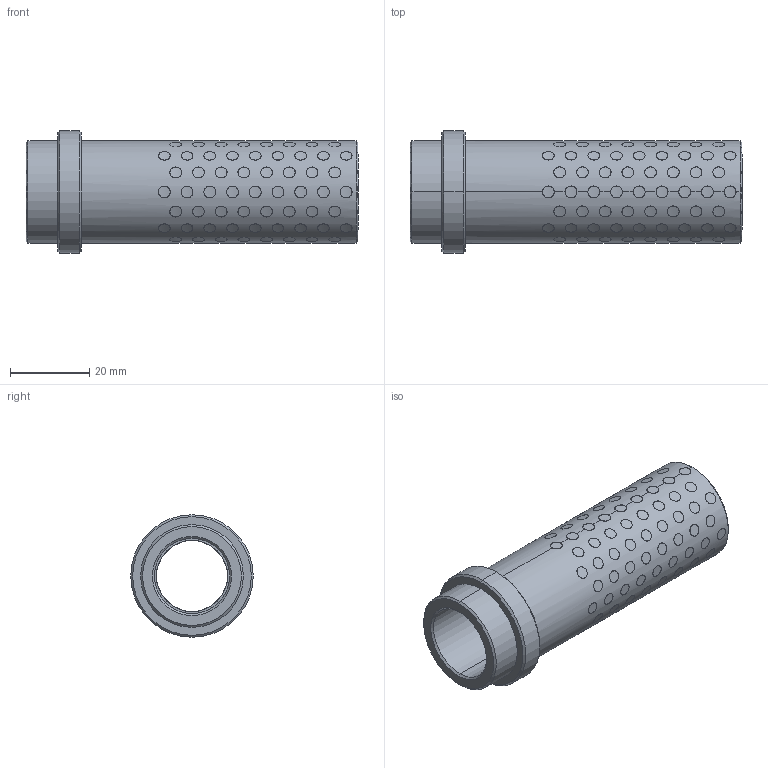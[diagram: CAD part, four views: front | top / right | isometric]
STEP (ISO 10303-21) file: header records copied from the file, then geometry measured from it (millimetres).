
FILE_DESCRIPTION((''),'2;1');
FILE_NAME('G31218076','2017-12-30T',('MANU'),(''),'PRO/ENGINEER BY PARAMETRIC TECHNOLOGY CORPORATION, 2012130','PRO/ENGINEER BY PARAMETRIC TECHNOLOGY CORPORATION, 2012130','');
FILE_SCHEMA(('CONFIG_CONTROL_DESIGN'));
Products named in the file (1): G31218076
Bounding box: 84 x 31 x 31 mm (x, y, z)
Volume: 23478.1 mm3; surface area: 22817.4 mm2
Topology: 137 solids, 137 shells, 843 faces, 1794 edges, 1192 vertices
Faces by surface type: cylinder 826, cone 12, plane 5
Entity records: 39514 total; most frequent: CARTESIAN_POINT 23145, ORIENTED_EDGE 3588, DIRECTION 2352, EDGE_CURVE 1794, VERTEX_POINT 1192, B_SPLINE_CURVE_WITH_KNOTS 1160, EDGE_LOOP 1084, AXIS2_PLACEMENT_3D 875
